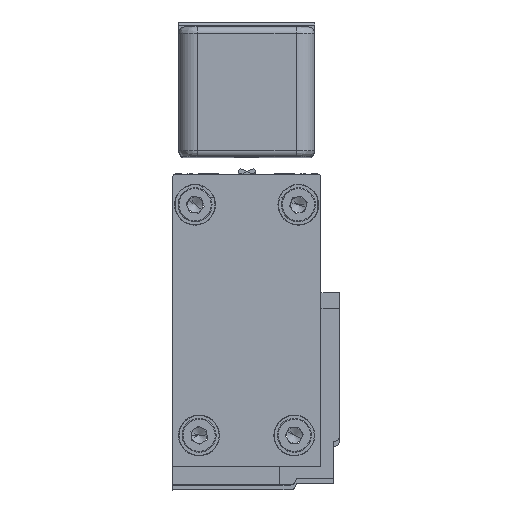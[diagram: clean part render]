
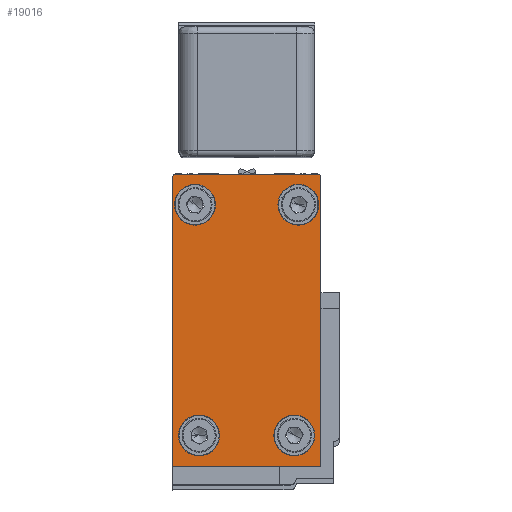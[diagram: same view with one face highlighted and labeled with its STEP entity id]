
A CAD part, top view. The second image highlights one B-rep face of the part: STEP entity #19016.
In plain terms, the highlighted planar face has unit normal (0, 0, 1).
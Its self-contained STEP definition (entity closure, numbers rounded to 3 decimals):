
#59 = DIRECTION ( 'NONE',  ( 0., 0., -1. ) ) ;
#306 = CARTESIAN_POINT ( 'NONE',  ( -18.014, -20.888, 3185. ) ) ;
#1170 = DIRECTION ( 'NONE',  ( 0., 0., -1. ) ) ;
#1935 = CIRCLE ( 'NONE', #30453, 3.302 ) ;
#1993 = CARTESIAN_POINT ( 'NONE',  ( -14.365, 21.401, 3185. ) ) ;
#2218 = EDGE_CURVE ( 'NONE', #17319, #33746, #24802, .T. ) ;
#2722 = DIRECTION ( 'NONE',  ( 0., 0., -1. ) ) ;
#2744 = VERTEX_POINT ( 'NONE', #29504 ) ;
#3111 = EDGE_CURVE ( 'NONE', #2744, #33746, #21342, .T. ) ;
#3265 = VECTOR ( 'NONE', #8384, 1000. ) ;
#3464 = ORIENTED_EDGE ( 'NONE', *, *, #32562, .T. ) ;
#3868 = CIRCLE ( 'NONE', #4188, 3.302 ) ;
#4037 = LINE ( 'NONE', #306, #24077 ) ;
#4184 = VERTEX_POINT ( 'NONE', #30347 ) ;
#4188 = AXIS2_PLACEMENT_3D ( 'NONE', #10118, #28254, #12775 ) ;
#4668 = DIRECTION ( 'NONE',  ( -1., 0., 0. ) ) ;
#4826 = VECTOR ( 'NONE', #14389, 1000. ) ;
#4854 = CARTESIAN_POINT ( 'NONE',  ( 5.485, 25.871, 3185. ) ) ;
#5367 = FACE_BOUND ( 'NONE', #19832, .T. ) ;
#5745 = DIRECTION ( 'NONE',  ( 0., 0., 1. ) ) ;
#5798 = ORIENTED_EDGE ( 'NONE', *, *, #5845, .T. ) ;
#5845 = EDGE_CURVE ( 'NONE', #14257, #15206, #15477, .T. ) ;
#5916 = EDGE_LOOP ( 'NONE', ( #13264, #11788 ) ) ;
#5977 = CARTESIAN_POINT ( 'NONE',  ( -18.014, 25.871, 3185. ) ) ;
#6101 = CARTESIAN_POINT ( 'NONE',  ( 5.984, 25.871, 3185. ) ) ;
#6162 = VERTEX_POINT ( 'NONE', #6204 ) ;
#6204 = CARTESIAN_POINT ( 'NONE',  ( -18.014, -20.888, 3185. ) ) ;
#6411 = CARTESIAN_POINT ( 'NONE',  ( -14.365, 21.401, 3185. ) ) ;
#6665 = CARTESIAN_POINT ( 'NONE',  ( -17.667, 21.401, 3185. ) ) ;
#6806 = EDGE_CURVE ( 'NONE', #33148, #26715, #16166, .T. ) ;
#7073 = CIRCLE ( 'NONE', #22449, 3.302 ) ;
#7082 = EDGE_CURVE ( 'NONE', #10054, #27816, #30683, .T. ) ;
#7213 = CARTESIAN_POINT ( 'NONE',  ( -13.714, -15.887, 3185. ) ) ;
#7509 = DIRECTION ( 'NONE',  ( 0., 1., 0. ) ) ;
#8217 = ORIENTED_EDGE ( 'NONE', *, *, #31645, .T. ) ;
#8236 = VECTOR ( 'NONE', #24417, 1000. ) ;
#8380 = EDGE_CURVE ( 'NONE', #6162, #14257, #4037, .T. ) ;
#8384 = DIRECTION ( 'NONE',  ( 0., 1., 0. ) ) ;
#9079 = DIRECTION ( 'NONE',  ( -1., 0., 0. ) ) ;
#9546 = CARTESIAN_POINT ( 'NONE',  ( -0.967, 21.401, 3185. ) ) ;
#9708 = ORIENTED_EDGE ( 'NONE', *, *, #8380, .T. ) ;
#9735 = CARTESIAN_POINT ( 'NONE',  ( -17.514, 26.371, 3185. ) ) ;
#9881 = DIRECTION ( 'NONE',  ( 0., 0., -1. ) ) ;
#9902 = DIRECTION ( 'NONE',  ( -1., 0., 0. ) ) ;
#10054 = VERTEX_POINT ( 'NONE', #9546 ) ;
#10118 = CARTESIAN_POINT ( 'NONE',  ( 2.335, 21.401, 3185. ) ) ;
#10450 = CIRCLE ( 'NONE', #20278, 3.302 ) ;
#10790 = CARTESIAN_POINT ( 'NONE',  ( 5.984, -20.888, 3185. ) ) ;
#10881 = CARTESIAN_POINT ( 'NONE',  ( 5.637, 21.401, 3185. ) ) ;
#11532 = FACE_BOUND ( 'NONE', #19051, .T. ) ;
#11725 = CIRCLE ( 'NONE', #18271, 3.302 ) ;
#11788 = ORIENTED_EDGE ( 'NONE', *, *, #25888, .T. ) ;
#11871 = CARTESIAN_POINT ( 'NONE',  ( 5.485, 26.371, 3185. ) ) ;
#12389 = FACE_BOUND ( 'NONE', #23493, .T. ) ;
#12775 = DIRECTION ( 'NONE',  ( -1., 0., 0. ) ) ;
#13087 = EDGE_CURVE ( 'NONE', #28863, #27451, #1935, .T. ) ;
#13134 = AXIS2_PLACEMENT_3D ( 'NONE', #15867, #59, #18466 ) ;
#13264 = ORIENTED_EDGE ( 'NONE', *, *, #7082, .T. ) ;
#13335 = ORIENTED_EDGE ( 'NONE', *, *, #3111, .F. ) ;
#13419 = CARTESIAN_POINT ( 'NONE',  ( -17.514, 25.871, 3185. ) ) ;
#14257 = VERTEX_POINT ( 'NONE', #16423 ) ;
#14389 = DIRECTION ( 'NONE',  ( -1., 0., 0. ) ) ;
#15206 = VERTEX_POINT ( 'NONE', #30147 ) ;
#15236 = LINE ( 'NONE', #5977, #8236 ) ;
#15355 = CIRCLE ( 'NONE', #18738, 0.5 ) ;
#15477 = LINE ( 'NONE', #10790, #21559 ) ;
#15867 = CARTESIAN_POINT ( 'NONE',  ( 1.676, -15.887, 3185. ) ) ;
#15942 = CARTESIAN_POINT ( 'NONE',  ( -1.626, -15.887, 3185. ) ) ;
#16008 = DIRECTION ( 'NONE',  ( 0., 1., 0. ) ) ;
#16070 = DIRECTION ( 'NONE',  ( 0., 1., 0. ) ) ;
#16166 = CIRCLE ( 'NONE', #13134, 3.302 ) ;
#16423 = CARTESIAN_POINT ( 'NONE',  ( 5.984, -20.888, 3185. ) ) ;
#16636 = ORIENTED_EDGE ( 'NONE', *, *, #13087, .T. ) ;
#16949 = CARTESIAN_POINT ( 'NONE',  ( 2.335, 21.401, 3185. ) ) ;
#17319 = VERTEX_POINT ( 'NONE', #20307 ) ;
#18271 = AXIS2_PLACEMENT_3D ( 'NONE', #1993, #20380, #4668 ) ;
#18449 = CARTESIAN_POINT ( 'NONE',  ( 1.676, -15.887, 3185. ) ) ;
#18466 = DIRECTION ( 'NONE',  ( -1., 0., 0. ) ) ;
#18473 = FACE_OUTER_BOUND ( 'NONE', #24665, .T. ) ;
#18738 = AXIS2_PLACEMENT_3D ( 'NONE', #4854, #23173, #7509 ) ;
#19016 = ADVANCED_FACE ( 'NONE', ( #5367, #25345, #12389, #11532, #18473 ), #23900, .T. ) ;
#19051 = EDGE_LOOP ( 'NONE', ( #22317, #8217 ) ) ;
#19596 = DIRECTION ( 'NONE',  ( -1., 0., 0. ) ) ;
#19832 = EDGE_LOOP ( 'NONE', ( #16636, #24405 ) ) ;
#20278 = AXIS2_PLACEMENT_3D ( 'NONE', #25454, #9881, #28011 ) ;
#20307 = CARTESIAN_POINT ( 'NONE',  ( 5.485, 26.371, 3185. ) ) ;
#20380 = DIRECTION ( 'NONE',  ( 0., 0., -1. ) ) ;
#20730 = CARTESIAN_POINT ( 'NONE',  ( -10.412, -15.887, 3185. ) ) ;
#20747 = EDGE_CURVE ( 'NONE', #27451, #28863, #11725, .T. ) ;
#21010 = ORIENTED_EDGE ( 'NONE', *, *, #2218, .T. ) ;
#21078 = DIRECTION ( 'NONE',  ( -1., 0., 0. ) ) ;
#21199 = CIRCLE ( 'NONE', #31555, 3.302 ) ;
#21342 = CIRCLE ( 'NONE', #23029, 0.5 ) ;
#21421 = CARTESIAN_POINT ( 'NONE',  ( -18.014, -20.888, 3185. ) ) ;
#21559 = VECTOR ( 'NONE', #16070, 1000. ) ;
#22317 = ORIENTED_EDGE ( 'NONE', *, *, #24288, .T. ) ;
#22366 = EDGE_CURVE ( 'NONE', #26715, #33148, #7073, .T. ) ;
#22449 = AXIS2_PLACEMENT_3D ( 'NONE', #18449, #2722, #21078 ) ;
#23029 = AXIS2_PLACEMENT_3D ( 'NONE', #13419, #31460, #16008 ) ;
#23173 = DIRECTION ( 'NONE',  ( 0., 0., 1. ) ) ;
#23493 = EDGE_LOOP ( 'NONE', ( #29421, #30089 ) ) ;
#23697 = CARTESIAN_POINT ( 'NONE',  ( 4.978, -15.887, 3185. ) ) ;
#23726 = DIRECTION ( 'NONE',  ( 1., 0., 0. ) ) ;
#23900 = PLANE ( 'NONE',  #25819 ) ;
#23996 = DIRECTION ( 'NONE',  ( -1., 0., 0. ) ) ;
#24077 = VECTOR ( 'NONE', #23726, 1000. ) ;
#24137 = LINE ( 'NONE', #31865, #3265 ) ;
#24288 = EDGE_CURVE ( 'NONE', #4184, #33001, #21199, .T. ) ;
#24405 = ORIENTED_EDGE ( 'NONE', *, *, #20747, .T. ) ;
#24417 = DIRECTION ( 'NONE',  ( 0., -1., 0. ) ) ;
#24630 = DIRECTION ( 'NONE',  ( 0., 0., -1. ) ) ;
#24665 = EDGE_LOOP ( 'NONE', ( #5798, #33118, #26304, #21010, #13335, #3464, #9708 ) ) ;
#24802 = LINE ( 'NONE', #11871, #4826 ) ;
#25345 = FACE_BOUND ( 'NONE', #5916, .T. ) ;
#25454 = CARTESIAN_POINT ( 'NONE',  ( -13.714, -15.887, 3185. ) ) ;
#25473 = DIRECTION ( 'NONE',  ( 0., 0., -1. ) ) ;
#25819 = AXIS2_PLACEMENT_3D ( 'NONE', #21421, #5745, #23996 ) ;
#25888 = EDGE_CURVE ( 'NONE', #27816, #10054, #3868, .T. ) ;
#26304 = ORIENTED_EDGE ( 'NONE', *, *, #26481, .T. ) ;
#26481 = EDGE_CURVE ( 'NONE', #30760, #17319, #15355, .T. ) ;
#26715 = VERTEX_POINT ( 'NONE', #23697 ) ;
#27289 = EDGE_CURVE ( 'NONE', #15206, #30760, #24137, .T. ) ;
#27334 = CARTESIAN_POINT ( 'NONE',  ( -11.063, 21.401, 3185. ) ) ;
#27451 = VERTEX_POINT ( 'NONE', #27334 ) ;
#27816 = VERTEX_POINT ( 'NONE', #10881 ) ;
#28011 = DIRECTION ( 'NONE',  ( -1., 0., 0. ) ) ;
#28254 = DIRECTION ( 'NONE',  ( 0., 0., -1. ) ) ;
#28863 = VERTEX_POINT ( 'NONE', #6665 ) ;
#29421 = ORIENTED_EDGE ( 'NONE', *, *, #6806, .T. ) ;
#29504 = CARTESIAN_POINT ( 'NONE',  ( -18.014, 25.871, 3185. ) ) ;
#29786 = AXIS2_PLACEMENT_3D ( 'NONE', #16949, #1170, #19596 ) ;
#30089 = ORIENTED_EDGE ( 'NONE', *, *, #22366, .T. ) ;
#30147 = CARTESIAN_POINT ( 'NONE',  ( 5.984, 7.11, 3185. ) ) ;
#30347 = CARTESIAN_POINT ( 'NONE',  ( -17.017, -15.887, 3185. ) ) ;
#30453 = AXIS2_PLACEMENT_3D ( 'NONE', #6411, #24630, #9079 ) ;
#30683 = CIRCLE ( 'NONE', #29786, 3.302 ) ;
#30760 = VERTEX_POINT ( 'NONE', #6101 ) ;
#31460 = DIRECTION ( 'NONE',  ( 0., 0., -1. ) ) ;
#31555 = AXIS2_PLACEMENT_3D ( 'NONE', #7213, #25473, #9902 ) ;
#31645 = EDGE_CURVE ( 'NONE', #33001, #4184, #10450, .T. ) ;
#31865 = CARTESIAN_POINT ( 'NONE',  ( 5.984, 7.11, 3185. ) ) ;
#32562 = EDGE_CURVE ( 'NONE', #2744, #6162, #15236, .T. ) ;
#33001 = VERTEX_POINT ( 'NONE', #20730 ) ;
#33118 = ORIENTED_EDGE ( 'NONE', *, *, #27289, .T. ) ;
#33148 = VERTEX_POINT ( 'NONE', #15942 ) ;
#33746 = VERTEX_POINT ( 'NONE', #9735 ) ;
